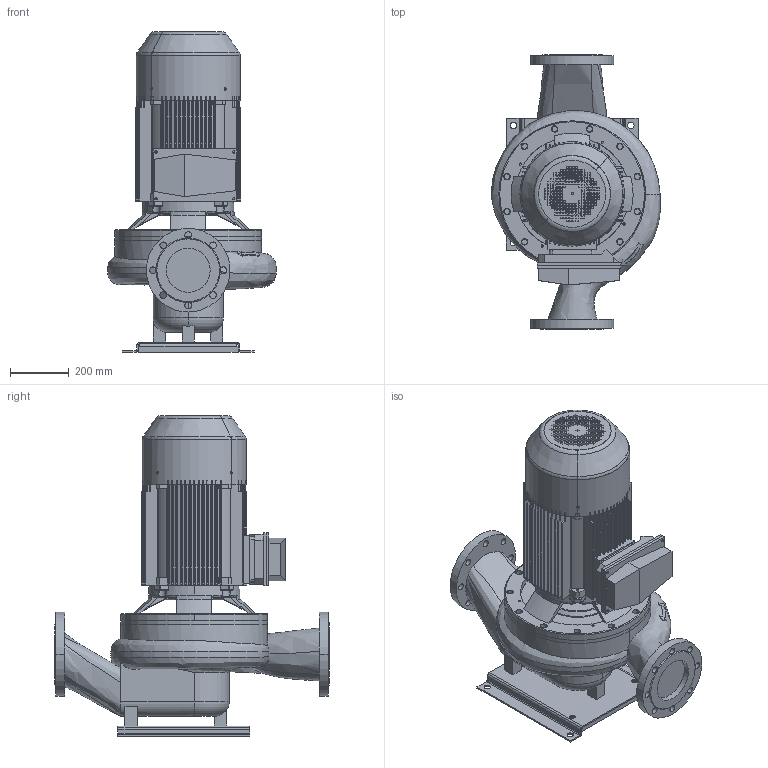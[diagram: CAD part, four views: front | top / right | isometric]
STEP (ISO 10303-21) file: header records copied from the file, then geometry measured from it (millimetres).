
FILE_DESCRIPTION(('STEP AP214'),'1');
FILE_NAME('export.stp','2018-06-06T10:58:55',(' '),(' '),'Spatial InterOp 3D',' ',' ');
FILE_SCHEMA(('AUTOMOTIVE_DESIGN { 1 0 10303 214 1 1 1 1 }'));
Length unit declared in the file: millimetre
Products named in the file (14): W_L150S4220-KP187; W_L_150S_pump_new; R200359; R200119; V_MKP187K2F41; R200132; V_TUULSUOJA_KP187; R200138; R200137; R200069; V_TLL125SAL1250; P100464; P100462; P101191
Assembly tree (14 placements, depth 4):
  W_L150S4220-KP187
    W_L_150S_pump_new
    V_MKP187K2F41
      R200359
        R200119
      R200132
      V_TUULSUOJA_KP187
      R200138
      R200137
      R200069
    V_TLL125SAL1250
    P100464
      P100462
      P101191  x2
Bounding box: 576.11 x 935 x 1093.5 mm (x, y, z)
Volume: 72950527 mm3; surface area: 6035568.5 mm2
Topology: 11 solids, 11 shells, 2380 faces, 6897 edges, 4539 vertices
Faces by surface type: plane 1290, cylinder 870, torus 92, bspline 74, cone 46, sphere 8
Entity records: 108440 total; most frequent: CARTESIAN_POINT 23847, ORIENTED_EDGE 13598, DIRECTION 13047, EDGE_CURVE 6799, VERTEX_POINT 4487, LINE 4359, VECTOR 4359, AXIS2_PLACEMENT_3D 4344
